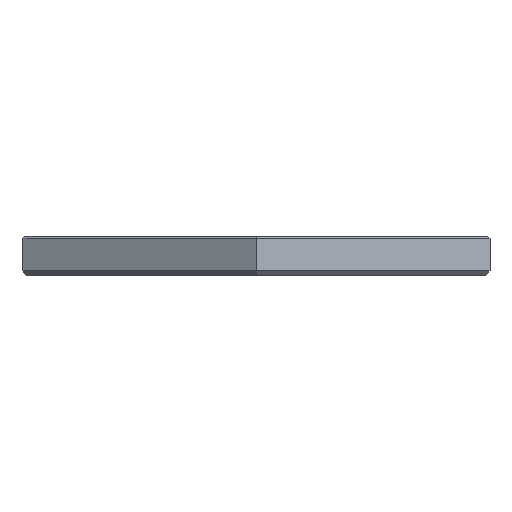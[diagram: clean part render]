
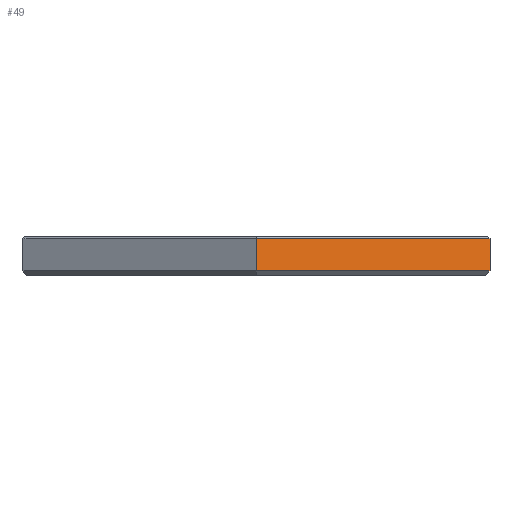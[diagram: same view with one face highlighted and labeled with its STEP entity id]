
A CAD part, front view. The second image highlights one B-rep face of the part: STEP entity #49.
In plain terms, the highlighted planar face has unit normal (0.5, -0.866, 0).
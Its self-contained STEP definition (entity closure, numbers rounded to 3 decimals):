
#49=ADVANCED_FACE('',(#257),#3131,.T.);
#257=FACE_OUTER_BOUND('',#465,.T.);
#465=EDGE_LOOP('',(#792,#793,#794,#795));
#792=ORIENTED_EDGE('',*,*,#1827,.T.);
#793=ORIENTED_EDGE('',*,*,#1807,.F.);
#794=ORIENTED_EDGE('',*,*,#1806,.F.);
#795=ORIENTED_EDGE('',*,*,#1805,.T.);
#1805=EDGE_CURVE('',#2818,#2830,#2333,.T.);
#1806=EDGE_CURVE('',#2818,#2819,#2334,.T.);
#1807=EDGE_CURVE('',#2819,#2831,#2335,.T.);
#1827=EDGE_CURVE('',#2830,#2831,#2355,.T.);
#2333=B_SPLINE_CURVE_WITH_KNOTS('',1,(#4542,#4543),.UNSPECIFIED.,.F.,.F.,
(2,2),(1.2,12.545),.UNSPECIFIED.);
#2334=B_SPLINE_CURVE_WITH_KNOTS('',1,(#4544,#4545),.UNSPECIFIED.,.F.,.F.,
(2,2),(0.,70.),.UNSPECIFIED.);
#2335=B_SPLINE_CURVE_WITH_KNOTS('',1,(#4546,#4547),.UNSPECIFIED.,.F.,.F.,
(2,2),(1.2,12.545),.UNSPECIFIED.);
#2355=B_SPLINE_CURVE_WITH_KNOTS('',1,(#4646,#4647),.UNSPECIFIED.,.F.,.F.,
(2,2),(0.,70.),.UNSPECIFIED.);
#2818=VERTEX_POINT('',#4078);
#2819=VERTEX_POINT('',#4079);
#2830=VERTEX_POINT('',#4090);
#2831=VERTEX_POINT('',#4091);
#3131=PLANE('',#3427);
#3427=AXIS2_PLACEMENT_3D('',#3849,#3638,$);
#3638=DIRECTION('',(0.5,-0.866,0.));
#3849=CARTESIAN_POINT('',(60.622,-35.,12.7));
#4078=CARTESIAN_POINT('',(60.622,-35.,12.7));
#4079=CARTESIAN_POINT('',(0.,-70.,12.7));
#4090=CARTESIAN_POINT('',(60.622,-35.,21.));
#4091=CARTESIAN_POINT('',(0.,-70.,21.));
#4542=CARTESIAN_POINT('',(60.622,-35.,12.7));
#4543=CARTESIAN_POINT('',(60.622,-35.,21.));
#4544=CARTESIAN_POINT('',(60.622,-35.,12.7));
#4545=CARTESIAN_POINT('',(0.,-70.,12.7));
#4546=CARTESIAN_POINT('',(0.,-70.,12.7));
#4547=CARTESIAN_POINT('',(0.,-70.,21.));
#4646=CARTESIAN_POINT('',(60.622,-35.,21.));
#4647=CARTESIAN_POINT('',(0.,-70.,21.));
